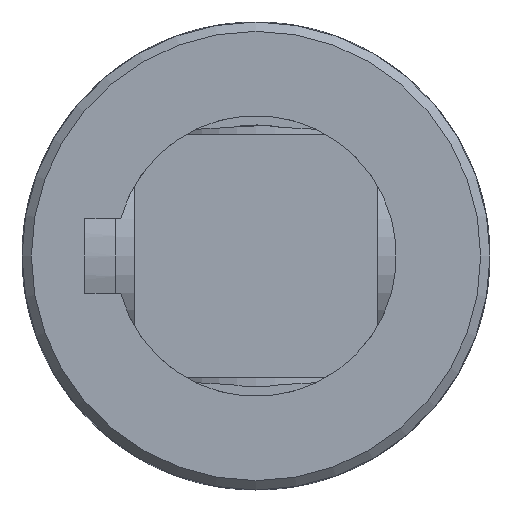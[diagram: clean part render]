
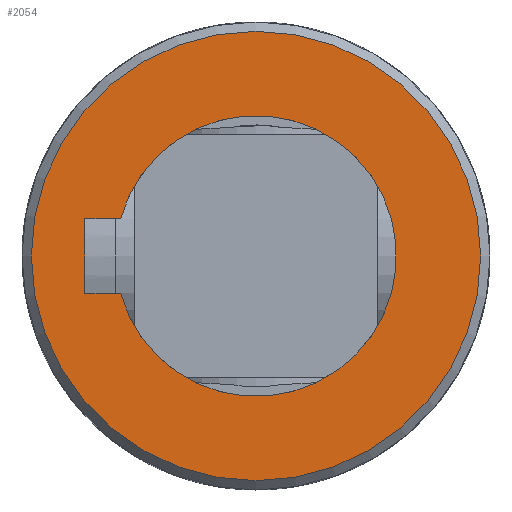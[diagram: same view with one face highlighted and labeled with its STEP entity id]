
A CAD part, front view. The second image highlights one B-rep face of the part: STEP entity #2054.
In plain terms, the highlighted planar face has unit normal (0, -1, 0).
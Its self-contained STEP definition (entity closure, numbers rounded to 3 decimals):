
#124=LINE('',#3801,#191);
#126=LINE('',#3817,#193);
#128=LINE('',#3821,#195);
#191=VECTOR('',#2638,3.843);
#193=VECTOR('',#2642,8.);
#195=VECTOR('',#2648,3.843);
#259=PLANE('',#2246);
#447=FACE_BOUND('',#707,.T.);
#542=FACE_OUTER_BOUND('',#706,.T.);
#706=EDGE_LOOP('',(#1709));
#707=EDGE_LOOP('',(#1710,#1711,#1712,#1713));
#827=CIRCLE('',#2228,15.);
#835=CIRCLE('',#2244,24.);
#986=VERTEX_POINT('',#3736);
#987=VERTEX_POINT('',#3738);
#997=VERTEX_POINT('',#3800);
#999=VERTEX_POINT('',#3816);
#1002=VERTEX_POINT('',#3844);
#1234=EDGE_CURVE('',#987,#986,#827,.T.);
#1247=EDGE_CURVE('',#997,#987,#124,.T.);
#1250=EDGE_CURVE('',#999,#997,#126,.T.);
#1253=EDGE_CURVE('',#986,#999,#128,.T.);
#1258=EDGE_CURVE('',#1002,#1002,#835,.T.);
#1709=ORIENTED_EDGE('',*,*,#1258,.F.);
#1710=ORIENTED_EDGE('',*,*,#1247,.T.);
#1711=ORIENTED_EDGE('',*,*,#1234,.T.);
#1712=ORIENTED_EDGE('',*,*,#1253,.T.);
#1713=ORIENTED_EDGE('',*,*,#1250,.T.);
#2054=ADVANCED_FACE('',(#542,#447),#259,.F.);
#2228=AXIS2_PLACEMENT_3D('',#3739,#2619,#2620);
#2244=AXIS2_PLACEMENT_3D('',#3845,#2657,#2658);
#2246=AXIS2_PLACEMENT_3D('',#4053,#2665,#2666);
#2619=DIRECTION('center_axis',(0.,1.,0.));
#2620=DIRECTION('ref_axis',(-0.267,0.,0.964));
#2638=DIRECTION('',(0.,0.,1.));
#2642=DIRECTION('',(-1.,0.,0.));
#2648=DIRECTION('',(0.,0.,-1.));
#2657=DIRECTION('center_axis',(0.,1.,0.));
#2658=DIRECTION('ref_axis',(1.,0.,0.));
#2665=DIRECTION('center_axis',(0.,1.,0.));
#2666=DIRECTION('ref_axis',(0.,0.,1.));
#3736=CARTESIAN_POINT('',(4.,-78.5,-14.457));
#3738=CARTESIAN_POINT('',(-4.,-78.5,-14.457));
#3739=CARTESIAN_POINT('Origin',(0.,-78.5,0.));
#3800=CARTESIAN_POINT('',(-4.,-78.5,-18.3));
#3801=CARTESIAN_POINT('',(-4.,-78.5,-9.15));
#3816=CARTESIAN_POINT('',(4.,-78.5,-18.3));
#3817=CARTESIAN_POINT('',(2.,-78.5,-18.3));
#3821=CARTESIAN_POINT('',(4.,-78.5,-7.228));
#3844=CARTESIAN_POINT('',(-24.,-78.5,0.));
#3845=CARTESIAN_POINT('Origin',(0.,-78.5,0.));
#4053=CARTESIAN_POINT('Origin',(0.,-78.5,0.));
